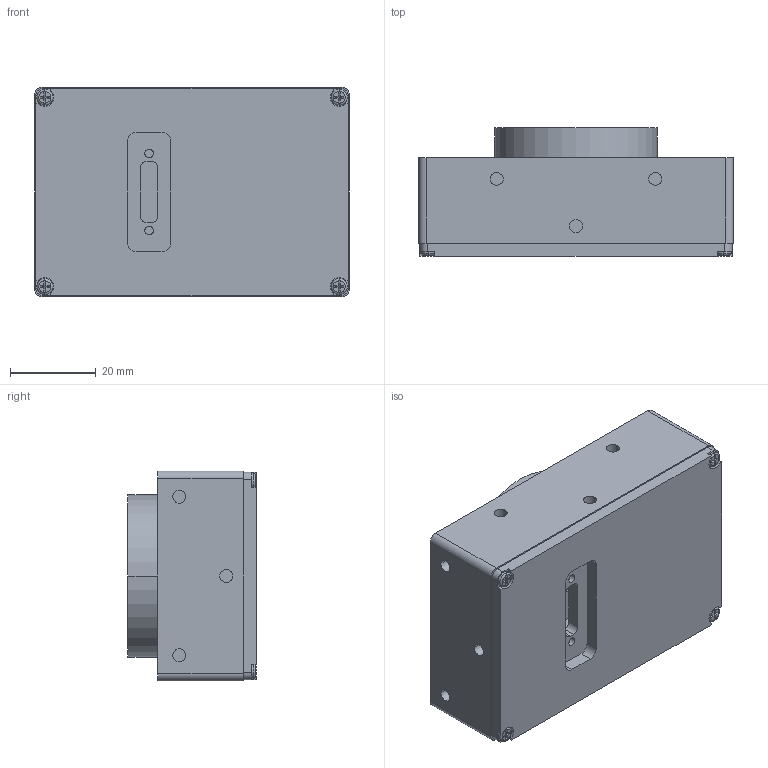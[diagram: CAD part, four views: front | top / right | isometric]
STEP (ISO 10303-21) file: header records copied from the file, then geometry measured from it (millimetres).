
FILE_DESCRIPTION((''),'2;1');
FILE_NAME('PROMOTION_SV-700S_ASM','2021-05-25T',('5001259'),(''),'CREO PARAMETRIC BY PTC INC, 2018360','CREO PARAMETRIC BY PTC INC, 2018360','');
FILE_SCHEMA(('AUTOMOTIVE_DESIGN { 1 0 10303 214 1 1 1 1 }'));
Length unit declared in the file: millimetre
Products named in the file (5): UPPER_CASE_ES_02; BPF; LOWER_CASE_ES_01; CSPPN1-ST3B-M2_5-8_203; PROMOTION_SV-700S_ASM
Assembly tree (7 placements, depth 2):
  PROMOTION_SV-700S_ASM
    UPPER_CASE_ES_02
    BPF
    LOWER_CASE_ES_01
    CSPPN1-ST3B-M2_5-8_203  x4
Bounding box: 73.5 x 30 x 49 mm (x, y, z)
Volume: 50181.8 mm3; surface area: 27218.6 mm2
Topology: 7 solids, 7 shells, 337 faces, 848 edges, 560 vertices
Faces by surface type: plane 183, cylinder 130, cone 16, torus 8
Entity records: 8640 total; most frequent: DIRECTION 1492, CARTESIAN_POINT 1425, ORIENTED_EDGE 1360, EDGE_CURVE 680, AXIS2_PLACEMENT_3D 535, VERTEX_POINT 452, VECTOR 422, LINE 422
